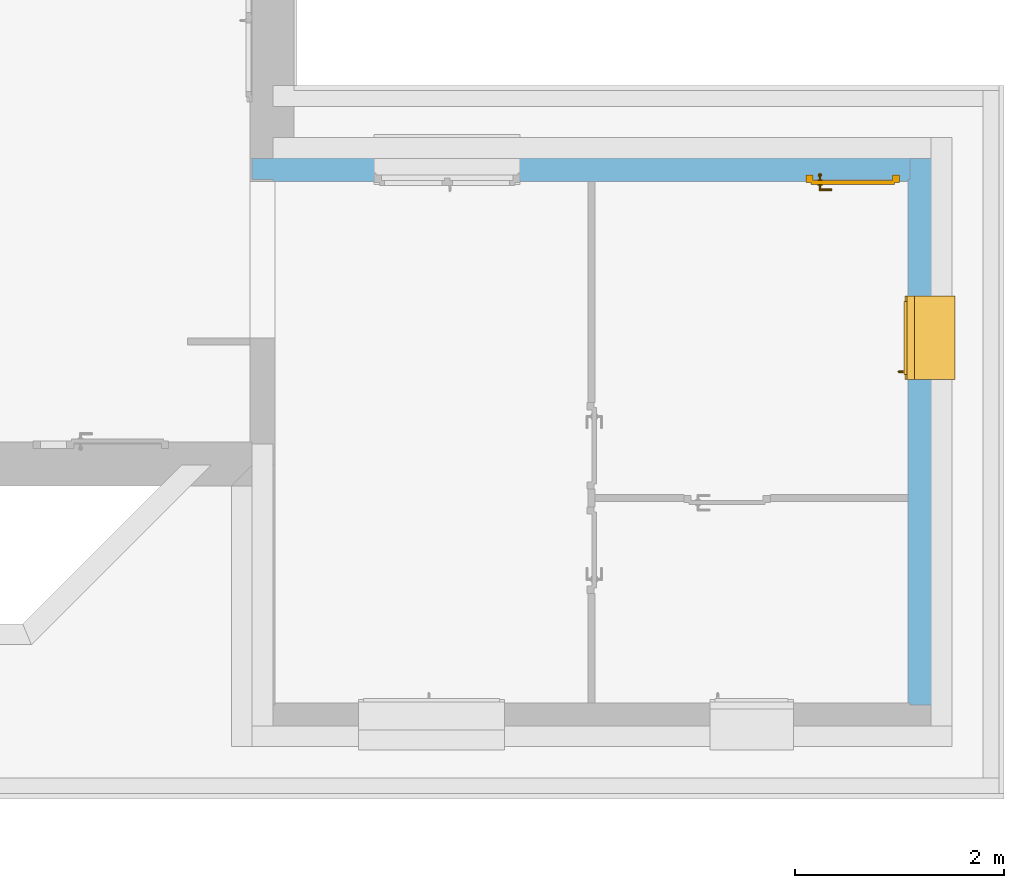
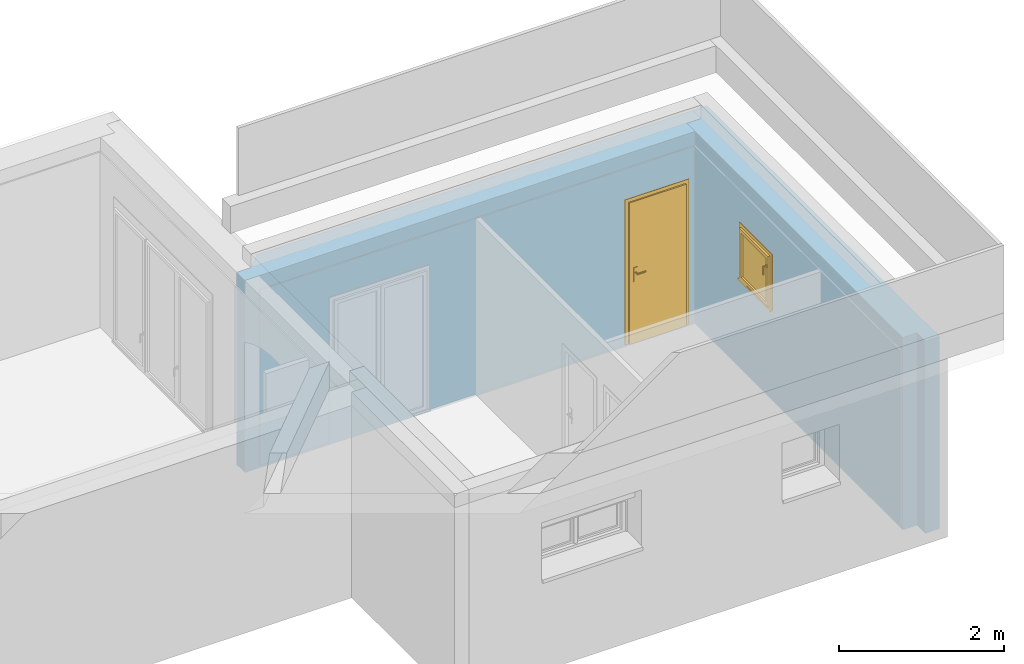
# One storey, part 15 of 16: 1 door, 1 window, 3 openings, plus 2 elements that do not belong to this part.
"""IFC4 building model written with IfcOpenShell, lengths in metres."""

from ifc_helpers import new_model, entity, si_unit, converted_unit, frame, origin, origin_with_axes, place, context, subcontext, project, spatial, polyline, outline, extrude, clip, bounded_halfspace, closed_shell, open_shell, faceted_brep, surface_model, source, transform, mapped, material, layer, layer_set, layer_usage, type_object, element, fill, save


model = new_model("IFC4")

# Units and contexts
model_context = context("Model", 3, precision=1e-05, world=origin())
body_context = subcontext(model_context, "Body", "Model", "MODEL_VIEW")
ifc_project = project(units=[si_unit("LENGTHUNIT", "METRE"), si_unit("AREAUNIT", "SQUARE_METRE"), si_unit("VOLUMEUNIT", "CUBIC_METRE"), si_unit("MASSUNIT", "GRAM", prefix="KILO"), converted_unit("PLANEANGLEUNIT", "DEGREE", entity("IfcPlaneAngleMeasure", 0.0174532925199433), si_unit("PLANEANGLEUNIT", "RADIAN"), dimensions=[0, 0, 0, 0, 0, 0, 0])], contexts=[model_context])

# Building, storey
building_placement = place(None, origin())
building = spatial("IfcBuilding", under=ifc_project, at=building_placement, Name="Projet de Construction", CompositionType="ELEMENT")
storey_placement = place(building_placement, frame((0.0, 0.0, -0.05)))
storey = spatial("IfcBuildingStorey", under=building, at=storey_placement, Name="RDC", CompositionType="ELEMENT", Elevation=-0.05)

# Wall, opening, window
ifc_material_1 = material()
ifc_layer_1 = layer(ifc_material_1, 0.2)
ifc_material_2 = material()
ifc_layer_2 = layer(ifc_material_2, 0.2)
ifc_material_3 = material()
ifc_layer_3 = layer(ifc_material_3, 0.02)
ifc_layer_set_1 = layer_set([ifc_layer_1, ifc_layer_2, ifc_layer_3])
ifc_layer_usage_1 = layer_usage(ifc_layer_set_1, "AXIS2", "POSITIVE", 0.0)
wall_1_placement = place(storey_placement, frame((9.8640625, -1.00020833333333, 0.0), z_axis=(0.0, 0.0, 1.0), x_axis=(0.0, 1.0, 0.0)))
wall_1 = element("IfcWall", 1, at=wall_1_placement, inside=storey, material=ifc_layer_usage_1, context=body_context, shape_type="Clipping", body=[
    clip(clip(extrude(outline(polyline([(0.0, -0.42), (5.64, -0.42), (5.64, -0.22), (5.44, -0.22), (5.44, -0.02), (5.24, -0.02), (5.24, 0.0), (0.22, 0.0), (0.22, -0.02), (0.2, -0.02), (0.2, -0.22), (0.0, -0.22), (0.0, -0.42)])), frame((0.0, 0.42, 0.0), z_axis=(0.0, 0.0, 1.0), x_axis=(1.0, 0.0, 0.0)), (0.0, 0.0, 1.0), 2.85), bounded_halfspace(frame((2.73, 0.41, 0.05), z_axis=(0.0, 0.0, 1.0), x_axis=(0.0, -1.0, 0.0)), True, origin_with_axes(), polyline([(0.22, 0.42), (0.22, 0.4), (5.24, 0.4), (5.24, 0.42), (0.22, 0.42)]))), bounded_halfspace(frame((2.73, 0.41, 2.65), z_axis=(0.0, 0.0, -1.0), x_axis=(1.0, 0.0, 0.0)), True, origin_with_axes(), polyline([(0.22, 0.4), (5.24, 0.4), (5.24, 0.42), (0.22, 0.42), (0.22, 0.4)]))),
])
opening_1_placement = place(wall_1_placement, frame((4.12, 0.2, 1.35), z_axis=(0.0, -1.0, 0.0), x_axis=(0.0, 0.0, 1.0)))
opening_1 = element("IfcOpeningStandardCase", 2, at=opening_1_placement, cuts=wall_1, Name="Baie de fenêtre", PredefinedType="OPENING", context=body_context, shape_type="SweptSolid", body=[
    extrude(outline(polyline([(0.0, 0.8), (0.85, 0.8), (0.85, 0.0), (0.0, 0.0), (0.0, 0.8)])), origin_with_axes(), (0.0, 0.0, 1.0), 0.2),
    extrude(outline(polyline([(0.0, 0.8), (0.85, 0.8), (0.85, 0.0), (0.0, 0.0), (0.0, 0.8)])), frame((0.0, 0.0, -0.2), z_axis=(0.0, 0.0, 1.0), x_axis=(1.0, 0.0, 0.0)), (0.0, 0.0, 1.0), 0.2),
    extrude(outline(polyline([(0.0, 0.8), (0.85, 0.8), (0.85, 0.0), (0.0, 0.0), (0.0, 0.8)])), frame((0.0, 0.0, -0.22), z_axis=(0.0, 0.0, 1.0), x_axis=(1.0, 0.0, 0.0)), (0.0, 0.0, 1.0), 0.02),
])
ifc_material_4 = material()
window_type = type_object("IfcWindowType", Name="1 vantail blanc", ParameterTakesPrecedence=False, PartitioningType="SINGLE_PANEL", PredefinedType="WINDOW")
shared_shape_1 = source(origin_with_axes(), body_context, "Body", "SurfaceModel", [
    surface_model("IfcShellBasedSurfaceModel", [(0.0, -0.37, 0.0), (0.0, 0.0, 0.0), (0.0, 0.0, 0.03), (0.0, -0.39, 0.02), (0.0, -0.39, -0.03), (0.0, -0.37, -0.03), (0.8, 0.0, 0.0), (0.8, -0.37, 0.0), (0.8, -0.37, -0.03), (0.8, -0.39, -0.03), (0.8, -0.39, 0.02), (0.8, 0.0, 0.03)], [closed_shell([[[0, 1, 2, 3, 4, 5]], [[6, 7, 8, 9, 10, 11]], [[1, 0, 7, 6]], [[2, 1, 6, 11]], [[3, 2, 11, 10]], [[4, 3, 10, 9]], [[5, 4, 9, 8]], [[0, 5, 8, 7]]], orient=[[False], [False], [False], [False], [False], [False], [False], [False]])]),
    surface_model("IfcShellBasedSurfaceModel", [(0.0, 0.09, 0.0), (0.0, 0.09, 0.03), (0.0, 0.04, 0.03), (0.0, 0.04, 0.0), (0.8, 0.04, 0.0), (0.8, 0.04, 0.03), (0.8, 0.09, 0.03), (0.8, 0.09, 0.0)], [closed_shell([[[0, 1, 2, 3]], [[4, 5, 6, 7]], [[3, 4, 7, 0]], [[2, 5, 4, 3]], [[1, 6, 5, 2]], [[0, 7, 6, 1]]], orient=[[False], [False], [False], [False], [False], [False]])]),
    surface_model("IfcShellBasedSurfaceModel", [(0.0, 0.07, 0.85), (0.0, 0.07, 0.0), (0.07, 0.07, 0.0), (0.07, 0.07, 0.85), (0.0, 0.0, 0.0), (0.0, 0.0, 0.85), (0.07, 0.0, 0.85), (0.07, 0.0, 0.0)], [closed_shell([[[0, 1, 2, 3]], [[4, 5, 6, 7]], [[1, 0, 5, 4]], [[2, 1, 4, 7]], [[3, 2, 7, 6]], [[0, 3, 6, 5]]], orient=[[False], [False], [False], [False], [False], [False]])]),
    surface_model("IfcShellBasedSurfaceModel", [(0.73, 0.07, 0.85), (0.73, 0.07, 0.0), (0.8, 0.07, 0.0), (0.8, 0.07, 0.85), (0.73, 0.0, 0.0), (0.73, 0.0, 0.85), (0.8, 0.0, 0.85), (0.8, 0.0, 0.0)], [closed_shell([[[0, 1, 2, 3]], [[4, 5, 6, 7]], [[1, 0, 5, 4]], [[2, 1, 4, 7]], [[3, 2, 7, 6]], [[0, 3, 6, 5]]], orient=[[False], [False], [False], [False], [False], [False]])]),
    surface_model("IfcShellBasedSurfaceModel", [(0.07, 0.07, 0.07), (0.07, 0.07, 0.0), (0.73, 0.07, 0.0), (0.73, 0.07, 0.07), (0.07, 0.0, 0.0), (0.07, 0.0, 0.07), (0.73, 0.0, 0.07), (0.73, 0.0, 0.0)], [closed_shell([[[0, 1, 2, 3]], [[4, 5, 6, 7]], [[1, 0, 5, 4]], [[2, 1, 4, 7]], [[3, 2, 7, 6]], [[0, 3, 6, 5]]], orient=[[False], [False], [False], [False], [False], [False]])]),
    surface_model("IfcShellBasedSurfaceModel", [(0.07, 0.07, 0.85), (0.07, 0.07, 0.78), (0.73, 0.07, 0.78), (0.73, 0.07, 0.85), (0.07, 0.0, 0.78), (0.07, 0.0, 0.85), (0.73, 0.0, 0.85), (0.73, 0.0, 0.78)], [closed_shell([[[0, 1, 2, 3]], [[4, 5, 6, 7]], [[1, 0, 5, 4]], [[2, 1, 4, 7]], [[3, 2, 7, 6]], [[0, 3, 6, 5]]], orient=[[False], [False], [False], [False], [False], [False]])]),
    surface_model("IfcShellBasedSurfaceModel", [(0.05, 0.1, 0.8), (0.05, 0.1, 0.05), (0.1, 0.1, 0.05), (0.1, 0.1, 0.8), (0.05, 0.05, 0.05), (0.05, 0.05, 0.8), (0.1, 0.05, 0.8), (0.1, 0.05, 0.05)], [closed_shell([[[0, 1, 2, 3]], [[4, 5, 6, 7]], [[1, 0, 5, 4]], [[2, 1, 4, 7]], [[3, 2, 7, 6]], [[0, 3, 6, 5]]], orient=[[False], [False], [False], [False], [False], [False]])]),
    surface_model("IfcShellBasedSurfaceModel", [(0.7, 0.1, 0.8), (0.7, 0.1, 0.05), (0.75, 0.1, 0.05), (0.75, 0.1, 0.8), (0.7, 0.05, 0.05), (0.7, 0.05, 0.8), (0.75, 0.05, 0.8), (0.75, 0.05, 0.05)], [closed_shell([[[0, 1, 2, 3]], [[4, 5, 6, 7]], [[1, 0, 5, 4]], [[2, 1, 4, 7]], [[3, 2, 7, 6]], [[0, 3, 6, 5]]], orient=[[False], [False], [False], [False], [False], [False]])]),
    surface_model("IfcShellBasedSurfaceModel", [(0.1, 0.1, 0.1), (0.1, 0.1, 0.05), (0.7, 0.1, 0.05), (0.7, 0.1, 0.1), (0.1, 0.05, 0.05), (0.1, 0.05, 0.1), (0.7, 0.05, 0.1), (0.7, 0.05, 0.05)], [closed_shell([[[0, 1, 2, 3]], [[4, 5, 6, 7]], [[1, 0, 5, 4]], [[2, 1, 4, 7]], [[3, 2, 7, 6]], [[0, 3, 6, 5]]], orient=[[False], [False], [False], [False], [False], [False]])]),
    surface_model("IfcShellBasedSurfaceModel", [(0.1, 0.1, 0.8), (0.1, 0.1, 0.75), (0.7, 0.1, 0.75), (0.7, 0.1, 0.8), (0.1, 0.05, 0.75), (0.1, 0.05, 0.8), (0.7, 0.05, 0.8), (0.7, 0.05, 0.75)], [closed_shell([[[0, 1, 2, 3]], [[4, 5, 6, 7]], [[1, 0, 5, 4]], [[2, 1, 4, 7]], [[3, 2, 7, 6]], [[0, 3, 6, 5]]], orient=[[False], [False], [False], [False], [False], [False]])]),
    surface_model("IfcShellBasedSurfaceModel", [(0.0625, 0.1, 0.67), (0.0875, 0.1, 0.67), (0.0875, 0.1, 0.63), (0.0625, 0.1, 0.63), (0.0625, 0.11, 0.63), (0.0875, 0.11, 0.63), (0.0875, 0.11, 0.67), (0.0625, 0.11, 0.67)], [closed_shell([[[0, 1, 2, 3]], [[4, 5, 6, 7]], [[3, 4, 7, 0]], [[2, 5, 4, 3]], [[1, 6, 5, 2]], [[0, 7, 6, 1]]], orient=[[False], [False], [False], [False], [False], [False]])]),
    surface_model("IfcShellBasedSurfaceModel", [(0.085, 0.11, 0.65), (0.0836602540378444, 0.11, 0.645), (0.08, 0.11, 0.641339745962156), (0.075, 0.11, 0.64), (0.07, 0.11, 0.641339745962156), (0.0663397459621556, 0.11, 0.645), (0.065, 0.11, 0.65), (0.0663397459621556, 0.11, 0.655), (0.07, 0.11, 0.658660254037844), (0.075, 0.11, 0.66), (0.08, 0.11, 0.658660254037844), (0.0836602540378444, 0.11, 0.655), (0.0836602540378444, 0.155, 0.655), (0.085, 0.15, 0.65), (0.08, 0.158660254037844, 0.658660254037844), (0.075, 0.16, 0.66), (0.07, 0.158660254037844, 0.658660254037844), (0.0663397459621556, 0.155, 0.655), (0.065, 0.15, 0.65), (0.0663397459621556, 0.145, 0.645), (0.07, 0.141339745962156, 0.641339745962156), (0.075, 0.14, 0.64), (0.08, 0.141339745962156, 0.641339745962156), (0.0836602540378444, 0.145, 0.645), (0.085, 0.15, 0.535), (0.0836602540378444, 0.155, 0.535), (0.08, 0.158660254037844, 0.535), (0.075, 0.16, 0.535), (0.07, 0.158660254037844, 0.535), (0.0663397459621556, 0.155, 0.535), (0.065, 0.15, 0.535), (0.0663397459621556, 0.145, 0.535), (0.07, 0.141339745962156, 0.535), (0.075, 0.14, 0.535), (0.08, 0.141339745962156, 0.535), (0.0836602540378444, 0.145, 0.535)], [closed_shell([[[0, 1, 2, 3, 4, 5, 6, 7, 8, 9, 10, 11]], [[0, 11, 12, 13]], [[11, 10, 14, 12]], [[10, 9, 15, 14]], [[9, 8, 16, 15]], [[8, 7, 17, 16]], [[7, 6, 18, 17]], [[6, 5, 19, 18]], [[5, 4, 20, 19]], [[4, 3, 21, 20]], [[3, 2, 22, 21]], [[2, 1, 23, 22]], [[1, 0, 13, 23]], [[24, 25, 26, 27, 28, 29, 30, 31, 32, 33, 34, 35]], [[13, 12, 25, 24]], [[12, 14, 26, 25]], [[14, 15, 27, 26]], [[15, 16, 28, 27]], [[16, 17, 29, 28]], [[17, 18, 30, 29]], [[18, 19, 31, 30]], [[19, 20, 32, 31]], [[20, 21, 33, 32]], [[21, 22, 34, 33]], [[22, 23, 35, 34]], [[23, 13, 24, 35]]], orient=[[False], [False], [False], [False], [False], [False], [False], [False], [False], [False], [False], [False], [False], [False], [False], [False], [False], [False], [False], [False], [False], [False], [False], [False], [False], [False]])]),
    surface_model("IfcShellBasedSurfaceModel", [(0.1, 0.075, 0.1), (0.7, 0.075, 0.1), (0.7, 0.075, 0.75), (0.1, 0.075, 0.75)], [open_shell([[[0, 1, 2, 3]]], orient=[[False]])]),
])
window_placement = place(opening_1_placement, frame((0.0, 0.8, -0.16), z_axis=(1.0, 0.0, 0.0), x_axis=(0.0, -1.0, 0.0)))
window = element("IfcWindow", 3, at=window_placement, inside=storey, type_object=window_type, material=ifc_material_4, Name="1 vantail blanc", OverallHeight=0.85, OverallWidth=0.8, context=body_context, shape_type="MappedRepresentation", body=[
    mapped(shared_shape_1, transform((0.0, 0.0, 0.0), x_axis=(1.0, 0.0, 0.0), y_axis=(0.0, 1.0, 0.0), z_axis=(0.0, 0.0, 1.0), scale=1.0)),
])
fill(opening_1, window)

# Wall, openings, door
ifc_material_5 = material()
ifc_layer_4 = layer(ifc_material_5, 0.200000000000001)
ifc_material_6 = material()
ifc_layer_5 = layer(ifc_material_6, 0.2)
ifc_material_7 = material()
ifc_layer_6 = layer(ifc_material_7, 0.02)
ifc_layer_set_2 = layer_set([ifc_layer_4, ifc_layer_5, ifc_layer_6])
ifc_layer_usage_2 = layer_usage(ifc_layer_set_2, "AXIS2", "POSITIVE", 0.0)
wall_2_placement = place(storey_placement, frame((9.6640625, 4.63979166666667, 0.0), z_axis=(0.0, 0.0, 1.0), x_axis=(-1.0, 1.48853470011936e-16, 0.0)))
wall_2 = element("IfcWall", 4, at=wall_2_placement, inside=storey, material=ifc_layer_usage_2, context=body_context, shape_type="Clipping", body=[
    clip(clip(extrude(outline(polyline([(-6.51, -0.420000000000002), (-0.400000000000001, -0.420000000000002), (-0.2, -0.220000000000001), (3.2747763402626e-17, -0.220000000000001), (2.97706940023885e-18, -0.0200000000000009), (-0.2, -0.0200000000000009), (-0.2, -9.39265395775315e-16), (-6.29, -9.36288326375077e-16), (-6.29, -0.0200000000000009), (-6.31, -0.0200000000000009), (-6.31, -0.220000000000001), (-6.51, -0.220000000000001), (-6.51, -0.420000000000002)])), frame((6.51, 0.420000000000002, 0.0), z_axis=(0.0, 0.0, 1.0), x_axis=(1.0, 0.0, 0.0)), (0.0, 0.0, 1.0), 2.85), bounded_halfspace(frame((3.265, 0.410000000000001, 0.05), z_axis=(0.0, 0.0, 1.0), x_axis=(1.48853470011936e-16, -1.0, 0.0)), True, origin_with_axes(), polyline([(0.22, 0.42), (0.22, 0.4), (6.31, 0.4), (6.31, 0.42), (0.22, 0.42)]))), bounded_halfspace(frame((3.265, 0.410000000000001, 2.65), z_axis=(0.0, 0.0, -1.0), x_axis=(1.0, -4.88845550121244e-19, 0.0)), True, origin_with_axes(), polyline([(0.22, 0.4), (6.31, 0.4), (6.31, 0.42), (0.22, 0.42), (0.22, 0.4)]))),
])
opening_2_placement = place(wall_2_placement, frame((5.34, 0.200000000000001, 0.05), z_axis=(0.0, -1.0, 0.0), x_axis=(0.0, 0.0, 1.0)))
element("IfcOpeningStandardCase", 5, at=opening_2_placement, cuts=wall_2, Name="Baie de porte", PredefinedType="OPENING", context=body_context, shape_type="SweptSolid", body=[
    extrude(outline(polyline([(0.0, 1.4), (2.15, 1.4), (2.15, 0.0), (0.0, 0.0), (0.0, 1.4)])), origin_with_axes(), (0.0, 0.0, 1.0), 0.200000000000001),
    extrude(outline(polyline([(0.0, 1.4), (2.15, 1.4), (2.15, 0.0), (0.0, 0.0), (0.0, 1.4)])), frame((0.0, 0.0, -0.2), z_axis=(0.0, 0.0, 1.0), x_axis=(1.0, 0.0, 0.0)), (0.0, 0.0, 1.0), 0.2),
    extrude(outline(polyline([(0.0, 1.4), (2.15, 1.4), (2.15, 0.0), (0.0, 0.0), (0.0, 1.4)])), frame((0.0, 0.0, -0.22), z_axis=(0.0, 0.0, 1.0), x_axis=(1.0, 0.0, 0.0)), (0.0, 0.0, 1.0), 0.02),
])
opening_3_placement = place(wall_2_placement, frame((1.2, 0.200000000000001, 0.05), z_axis=(0.0, -1.0, 0.0), x_axis=(0.0, 0.0, 1.0)))
opening_3 = element("IfcOpeningStandardCase", 6, at=opening_3_placement, cuts=wall_2, Name="Baie de porte", PredefinedType="OPENING", context=body_context, shape_type="SweptSolid", body=[
    extrude(outline(polyline([(0.0, 0.9), (2.15, 0.9), (2.15, 0.0), (0.0, 0.0), (0.0, 0.9)])), origin_with_axes(), (0.0, 0.0, 1.0), 0.200000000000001),
    extrude(outline(polyline([(0.0, 0.9), (2.15, 0.9), (2.15, 0.0), (0.0, 0.0), (0.0, 0.9)])), frame((0.0, 0.0, -0.2), z_axis=(0.0, 0.0, 1.0), x_axis=(1.0, 0.0, 0.0)), (0.0, 0.0, 1.0), 0.2),
    extrude(outline(polyline([(0.0, 0.9), (2.15, 0.9), (2.15, 0.0), (0.0, 0.0), (0.0, 0.9)])), frame((0.0, 0.0, -0.22), z_axis=(0.0, 0.0, 1.0), x_axis=(1.0, 0.0, 0.0)), (0.0, 0.0, 1.0), 0.02),
])
ifc_material_8 = material()
door_type = type_object("IfcDoorType", Name="1 vantail encadrement, blanc", OperationType="SINGLE_SWING_RIGHT", ParameterTakesPrecedence=False, PredefinedType="DOOR")
shared_shape_2 = source(origin_with_axes(), body_context, "Body", "Brep", [
    faceted_brep([(0.9, 0.0700000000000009, 2.15), (0.83, 0.0700000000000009, 2.15), (0.83, 0.0700000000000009, -4.28626379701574e-18), (0.9, 0.0700000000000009, -4.28626379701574e-18), (0.9, 9.09494701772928e-16, 4.28626379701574e-18), (0.83, 9.09494701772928e-16, 4.28626379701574e-18), (0.83, 9.09494701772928e-16, 2.15), (0.9, 9.09494701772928e-16, 2.15)], [[[0, 1, 2, 3]], [[4, 5, 6, 7]], [[3, 4, 7, 0]], [[2, 5, 4, 3]], [[1, 6, 5, 2]], [[0, 7, 6, 1]]], orient=[[False], [False], [False], [False], [False], [False]]),
    faceted_brep([(0.07, 0.0700000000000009, 2.15), (0.0, 0.0700000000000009, 2.15), (0.0, 0.0700000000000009, -4.28626379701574e-18), (0.07, 0.0700000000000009, -4.28626379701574e-18), (0.07, 9.09494701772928e-16, 4.28626379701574e-18), (0.0, 9.09494701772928e-16, 4.28626379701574e-18), (0.0, 9.09494701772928e-16, 2.15), (0.07, 9.09494701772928e-16, 2.15)], [[[0, 1, 2, 3]], [[4, 5, 6, 7]], [[3, 4, 7, 0]], [[2, 5, 4, 3]], [[1, 6, 5, 2]], [[0, 7, 6, 1]]], orient=[[False], [False], [False], [False], [False], [False]]),
    faceted_brep([(0.83, 0.0700000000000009, 2.15), (0.07, 0.0700000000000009, 2.15), (0.07, 0.0700000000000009, 2.08), (0.83, 0.0700000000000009, 2.08), (0.83, 9.09494701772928e-16, 2.08), (0.07, 9.09494701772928e-16, 2.08), (0.07, 9.09494701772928e-16, 2.15), (0.83, 9.09494701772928e-16, 2.15)], [[[0, 1, 2, 3]], [[4, 5, 6, 7]], [[3, 4, 7, 0]], [[2, 5, 4, 3]], [[1, 6, 5, 2]], [[0, 7, 6, 1]]], orient=[[False], [False], [False], [False], [False], [False]]),
    faceted_brep([(0.85, 0.0900000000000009, 2.1), (0.05, 0.0900000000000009, 2.1), (0.05, 0.0900000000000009, -6.73555739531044e-18), (0.85, 0.0900000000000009, -6.73555739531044e-18), (0.85, 0.0500000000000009, -1.83697019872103e-18), (0.05, 0.0500000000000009, -1.83697019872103e-18), (0.05, 0.0500000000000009, 2.1), (0.85, 0.0500000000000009, 2.1)], [[[0, 1, 2, 3]], [[4, 5, 6, 7]], [[3, 4, 7, 0]], [[2, 5, 4, 3]], [[1, 6, 5, 2]], [[0, 7, 6, 1]]], orient=[[False], [False], [False], [False], [False], [False]]),
    faceted_brep([(0.79, 0.0500000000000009, 1.125), (0.74, 0.0500000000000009, 1.125), (0.74, 0.0500000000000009, 0.91), (0.79, 0.0500000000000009, 0.91), (0.79, 0.0400000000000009, 0.91), (0.74, 0.0400000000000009, 0.91), (0.74, 0.0400000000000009, 1.125), (0.79, 0.0400000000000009, 1.125)], [[[0, 1, 2, 3]], [[4, 5, 6, 7]], [[3, 4, 7, 0]], [[2, 5, 4, 3]], [[1, 6, 5, 2]], [[0, 7, 6, 1]]], orient=[[False], [False], [False], [False], [False], [False]]),
    faceted_brep([(0.756339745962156, 0.0400000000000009, 1.045), (0.76, 0.0400000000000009, 1.04133974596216), (0.765, 0.0400000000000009, 1.04), (0.77, 0.0400000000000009, 1.04133974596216), (0.773660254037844, 0.0400000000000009, 1.045), (0.775, 0.0400000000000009, 1.05), (0.773660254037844, 0.0400000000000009, 1.055), (0.77, 0.0400000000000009, 1.05866025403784), (0.765, 0.0400000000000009, 1.06), (0.76, 0.0400000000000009, 1.05866025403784), (0.756339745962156, 0.0400000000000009, 1.055), (0.755, 0.0400000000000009, 1.05), (0.755, 9.09494701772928e-16, 1.05), (0.756339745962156, 9.09494701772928e-16, 1.055), (0.76, 9.09494701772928e-16, 1.05866025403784), (0.765, 9.09494701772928e-16, 1.06), (0.77, 9.09494701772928e-16, 1.05866025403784), (0.773660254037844, 9.09494701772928e-16, 1.055), (0.775, 9.09494701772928e-16, 1.05), (0.773660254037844, 9.09494701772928e-16, 1.045), (0.77, 9.09494701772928e-16, 1.04133974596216), (0.765, 9.09494701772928e-16, 1.04), (0.76, 9.09494701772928e-16, 1.04133974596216), (0.756339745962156, 9.09494701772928e-16, 1.045)], [[[0, 1, 2, 3, 4, 5, 6, 7, 8, 9, 10, 11]], [[12, 13, 14, 15, 16, 17, 18, 19, 20, 21, 22, 23]], [[11, 12, 23, 0]], [[10, 13, 12, 11]], [[9, 14, 13, 10]], [[8, 15, 14, 9]], [[7, 16, 15, 8]], [[6, 17, 16, 7]], [[5, 18, 17, 6]], [[4, 19, 18, 5]], [[3, 20, 19, 4]], [[2, 21, 20, 3]], [[1, 22, 21, 2]], [[0, 23, 22, 1]]], orient=[[False], [False], [False], [False], [False], [False], [False], [False], [False], [False], [False], [False], [False], [False]]),
    faceted_brep([(0.745, 9.09494701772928e-16, 1.05), (0.747679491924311, 9.09494701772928e-16, 1.06), (0.75, -0.00999999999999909, 1.05866025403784), (0.747679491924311, -0.00999999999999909, 1.05), (0.755, 9.09494701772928e-16, 1.06732050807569), (0.756339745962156, -0.00999999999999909, 1.065), (0.765, 9.09494701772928e-16, 1.07), (0.765, -0.00999999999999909, 1.06732050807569), (0.775, 9.09494701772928e-16, 1.06732050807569), (0.773660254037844, -0.00999999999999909, 1.065), (0.782320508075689, 9.09494701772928e-16, 1.06), (0.78, -0.00999999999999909, 1.05866025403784), (0.785, 9.09494701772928e-16, 1.05), (0.782320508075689, -0.00999999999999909, 1.05), (0.782320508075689, 9.09494701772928e-16, 1.04), (0.78, -0.00999999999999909, 1.04133974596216), (0.775, 9.09494701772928e-16, 1.03267949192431), (0.773660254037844, -0.00999999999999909, 1.035), (0.765, 9.09494701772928e-16, 1.03), (0.765, -0.00999999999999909, 1.03267949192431), (0.755, 9.09494701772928e-16, 1.03267949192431), (0.756339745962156, -0.00999999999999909, 1.035), (0.747679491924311, 9.09494701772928e-16, 1.04), (0.75, -0.00999999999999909, 1.04133974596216), (0.756339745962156, -0.0173205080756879, 1.055), (0.755, -0.0173205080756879, 1.05), (0.76, -0.0173205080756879, 1.05866025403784), (0.765, -0.0173205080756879, 1.06), (0.77, -0.0173205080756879, 1.05866025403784), (0.773660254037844, -0.0173205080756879, 1.055), (0.775, -0.0173205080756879, 1.05), (0.773660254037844, -0.0173205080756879, 1.045), (0.77, -0.0173205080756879, 1.04133974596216), (0.765, -0.0173205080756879, 1.04), (0.76, -0.0173205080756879, 1.04133974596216), (0.756339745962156, -0.0173205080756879, 1.045), (0.765, -0.0199999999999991, 1.05), (0.747679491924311, 0.0100000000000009, 1.05), (0.75, 0.0100000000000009, 1.05866025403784), (0.756339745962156, 0.0100000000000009, 1.065), (0.765, 0.0100000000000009, 1.06732050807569), (0.773660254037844, 0.0100000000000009, 1.065), (0.78, 0.0100000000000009, 1.05866025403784), (0.782320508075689, 0.0100000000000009, 1.05), (0.78, 0.0100000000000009, 1.04133974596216), (0.773660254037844, 0.0100000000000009, 1.035), (0.765, 0.0100000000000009, 1.03267949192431), (0.756339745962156, 0.0100000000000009, 1.035), (0.75, 0.0100000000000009, 1.04133974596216), (0.755, 0.0173205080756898, 1.05), (0.756339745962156, 0.0173205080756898, 1.055), (0.76, 0.0173205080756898, 1.05866025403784), (0.765, 0.0173205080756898, 1.06), (0.77, 0.0173205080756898, 1.05866025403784), (0.773660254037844, 0.0173205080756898, 1.055), (0.775, 0.0173205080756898, 1.05), (0.773660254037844, 0.0173205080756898, 1.045), (0.77, 0.0173205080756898, 1.04133974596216), (0.765, 0.0173205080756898, 1.04), (0.76, 0.0173205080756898, 1.04133974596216), (0.756339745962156, 0.0173205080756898, 1.045), (0.765, 0.0200000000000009, 1.05)], [[[0, 1, 2, 3]], [[1, 4, 5, 2]], [[4, 6, 7, 5]], [[6, 8, 9, 7]], [[8, 10, 11, 9]], [[10, 12, 13, 11]], [[12, 14, 15, 13]], [[14, 16, 17, 15]], [[16, 18, 19, 17]], [[18, 20, 21, 19]], [[20, 22, 23, 21]], [[22, 0, 3, 23]], [[3, 2, 24, 25]], [[2, 5, 26, 24]], [[5, 7, 27, 26]], [[7, 9, 28, 27]], [[9, 11, 29, 28]], [[11, 13, 30, 29]], [[13, 15, 31, 30]], [[15, 17, 32, 31]], [[17, 19, 33, 32]], [[19, 21, 34, 33]], [[21, 23, 35, 34]], [[23, 3, 25, 35]], [[25, 24, 36]], [[24, 26, 36]], [[26, 27, 36]], [[27, 28, 36]], [[28, 29, 36]], [[29, 30, 36]], [[30, 31, 36]], [[31, 32, 36]], [[32, 33, 36]], [[33, 34, 36]], [[34, 35, 36]], [[35, 25, 36]], [[37, 38, 1, 0]], [[38, 39, 4, 1]], [[39, 40, 6, 4]], [[40, 41, 8, 6]], [[41, 42, 10, 8]], [[42, 43, 12, 10]], [[43, 44, 14, 12]], [[44, 45, 16, 14]], [[45, 46, 18, 16]], [[46, 47, 20, 18]], [[47, 48, 22, 20]], [[48, 37, 0, 22]], [[49, 50, 38, 37]], [[50, 51, 39, 38]], [[51, 52, 40, 39]], [[52, 53, 41, 40]], [[53, 54, 42, 41]], [[54, 55, 43, 42]], [[55, 56, 44, 43]], [[56, 57, 45, 44]], [[57, 58, 46, 45]], [[58, 59, 47, 46]], [[59, 60, 48, 47]], [[60, 49, 37, 48]], [[61, 50, 49]], [[61, 51, 50]], [[61, 52, 51]], [[61, 53, 52]], [[61, 54, 53]], [[61, 55, 54]], [[61, 56, 55]], [[61, 57, 56]], [[61, 58, 57]], [[61, 59, 58]], [[61, 60, 59]], [[61, 49, 60]]], orient=[[False], [False], [False], [False], [False], [False], [False], [False], [False], [False], [False], [False], [False], [False], [False], [False], [False], [False], [False], [False], [False], [False], [False], [False], [False], [False], [False], [False], [False], [False], [False], [False], [False], [False], [False], [False], [False], [False], [False], [False], [False], [False], [False], [False], [False], [False], [False], [False], [False], [False], [False], [False], [False], [False], [False], [False], [False], [False], [False], [False], [False], [False], [False], [False], [False], [False], [False], [False], [False], [False], [False], [False]]),
    faceted_brep([(0.79, 0.0900000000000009, 1.125), (0.79, 0.0900000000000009, 0.91), (0.74, 0.0900000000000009, 0.91), (0.74, 0.0900000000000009, 1.125), (0.79, 0.100000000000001, 0.91), (0.79, 0.100000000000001, 1.125), (0.74, 0.100000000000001, 1.125), (0.74, 0.100000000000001, 0.91)], [[[0, 1, 2, 3]], [[4, 5, 6, 7]], [[1, 0, 5, 4]], [[2, 1, 4, 7]], [[3, 2, 7, 6]], [[0, 3, 6, 5]]], orient=[[False], [False], [False], [False], [False], [False]]),
    faceted_brep([(0.765, 0.100000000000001, 1.06), (0.77, 0.100000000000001, 1.05866025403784), (0.773660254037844, 0.100000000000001, 1.055), (0.775, 0.100000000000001, 1.05), (0.773660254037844, 0.100000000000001, 1.045), (0.77, 0.100000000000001, 1.04133974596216), (0.765, 0.100000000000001, 1.04), (0.76, 0.100000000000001, 1.04133974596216), (0.756339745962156, 0.100000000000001, 1.045), (0.755, 0.100000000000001, 1.05), (0.756339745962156, 0.100000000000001, 1.055), (0.76, 0.100000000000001, 1.05866025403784), (0.765, 0.140000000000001, 1.06), (0.77, 0.145000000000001, 1.05866025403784), (0.773660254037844, 0.148660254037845, 1.055), (0.775, 0.150000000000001, 1.05), (0.773660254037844, 0.148660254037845, 1.045), (0.77, 0.145000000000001, 1.04133974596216), (0.765, 0.140000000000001, 1.04), (0.76, 0.135000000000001, 1.04133974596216), (0.756339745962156, 0.131339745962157, 1.045), (0.755, 0.130000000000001, 1.05), (0.756339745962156, 0.131339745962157, 1.055), (0.76, 0.135000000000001, 1.05866025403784), (0.65, 0.140000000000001, 1.06), (0.65, 0.135000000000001, 1.05866025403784), (0.65, 0.131339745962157, 1.055), (0.65, 0.130000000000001, 1.05), (0.65, 0.131339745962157, 1.045), (0.65, 0.135000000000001, 1.04133974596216), (0.65, 0.140000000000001, 1.04), (0.65, 0.145000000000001, 1.04133974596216), (0.65, 0.148660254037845, 1.045), (0.65, 0.150000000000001, 1.05), (0.65, 0.148660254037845, 1.055), (0.65, 0.145000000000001, 1.05866025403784)], [[[0, 1, 2, 3, 4, 5, 6, 7, 8, 9, 10, 11]], [[0, 12, 13, 1]], [[1, 13, 14, 2]], [[2, 14, 15, 3]], [[3, 15, 16, 4]], [[4, 16, 17, 5]], [[5, 17, 18, 6]], [[6, 18, 19, 7]], [[7, 19, 20, 8]], [[8, 20, 21, 9]], [[9, 21, 22, 10]], [[10, 22, 23, 11]], [[11, 23, 12, 0]], [[24, 25, 26, 27, 28, 29, 30, 31, 32, 33, 34, 35]], [[12, 24, 35, 13]], [[13, 35, 34, 14]], [[14, 34, 33, 15]], [[15, 33, 32, 16]], [[16, 32, 31, 17]], [[17, 31, 30, 18]], [[18, 30, 29, 19]], [[19, 29, 28, 20]], [[20, 28, 27, 21]], [[21, 27, 26, 22]], [[22, 26, 25, 23]], [[23, 25, 24, 12]]], orient=[[False], [False], [False], [False], [False], [False], [False], [False], [False], [False], [False], [False], [False], [False], [False], [False], [False], [False], [False], [False], [False], [False], [False], [False], [False], [False]]),
])
door_placement = place(opening_3_placement, frame((0.0, 0.9, -0.159999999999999), z_axis=(1.0, 0.0, 0.0), x_axis=(0.0, -1.0, -1.48853470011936e-16)))
door = element("IfcDoor", 7, at=door_placement, inside=storey, type_object=door_type, material=ifc_material_8, Name="1 vantail encadrement, blanc", OverallHeight=2.15, OverallWidth=0.9, context=body_context, shape_type="MappedRepresentation", body=[
    mapped(shared_shape_2, transform((0.0, 0.0, 0.0), x_axis=(1.0, 0.0, 0.0), y_axis=(0.0, 1.0, 0.0), z_axis=(0.0, 0.0, 1.0), scale=1.0)),
])
fill(opening_3, door)

save(model, "model.ifc")
